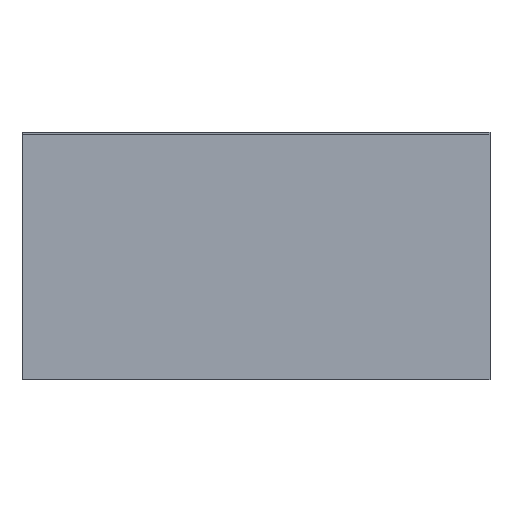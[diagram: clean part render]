
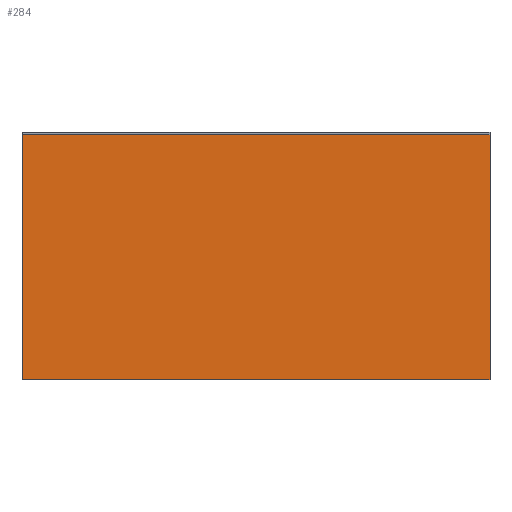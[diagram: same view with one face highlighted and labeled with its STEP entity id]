
A CAD part, front view. The second image highlights one B-rep face of the part: STEP entity #284.
In plain terms, the highlighted planar face has unit normal (0, -1, 0).
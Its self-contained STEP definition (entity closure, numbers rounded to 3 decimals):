
#38=FACE_OUTER_BOUND('',#52,.T.);
#52=EDGE_LOOP('',(#253,#254,#255,#256));
#58=LINE('',#387,#94);
#85=LINE('',#441,#121);
#87=LINE('',#444,#123);
#88=LINE('',#446,#124);
#94=VECTOR('',#318,10.);
#121=VECTOR('',#363,10.);
#123=VECTOR('',#367,10.);
#124=VECTOR('',#370,10.);
#129=VERTEX_POINT('',#384);
#130=VERTEX_POINT('',#386);
#147=VERTEX_POINT('',#438);
#148=VERTEX_POINT('',#440);
#154=EDGE_CURVE('',#130,#129,#58,.T.);
#181=EDGE_CURVE('',#148,#147,#85,.T.);
#183=EDGE_CURVE('',#147,#130,#87,.T.);
#184=EDGE_CURVE('',#148,#129,#88,.T.);
#253=ORIENTED_EDGE('',*,*,#154,.T.);
#254=ORIENTED_EDGE('',*,*,#184,.F.);
#255=ORIENTED_EDGE('',*,*,#181,.T.);
#256=ORIENTED_EDGE('',*,*,#183,.T.);
#270=PLANE('',#306);
#284=ADVANCED_FACE('',(#38),#270,.T.);
#306=AXIS2_PLACEMENT_3D('',#447,#371,#372);
#318=DIRECTION('',(-1.,0.,0.));
#363=DIRECTION('',(1.,0.,0.));
#367=DIRECTION('',(0.,0.,1.));
#370=DIRECTION('',(0.,0.,1.));
#371=DIRECTION('center_axis',(0.,-1.,0.));
#372=DIRECTION('ref_axis',(1.,0.,0.));
#384=CARTESIAN_POINT('',(0.,0.,0.445));
#386=CARTESIAN_POINT('',(0.85,0.,0.445));
#387=CARTESIAN_POINT('',(0.425,0.,0.445));
#438=CARTESIAN_POINT('',(0.85,0.,0.));
#440=CARTESIAN_POINT('',(0.,0.,0.));
#441=CARTESIAN_POINT('',(0.,0.,0.));
#444=CARTESIAN_POINT('',(0.85,0.,0.));
#446=CARTESIAN_POINT('',(0.,0.,0.));
#447=CARTESIAN_POINT('Origin',(0.,0.,0.));
